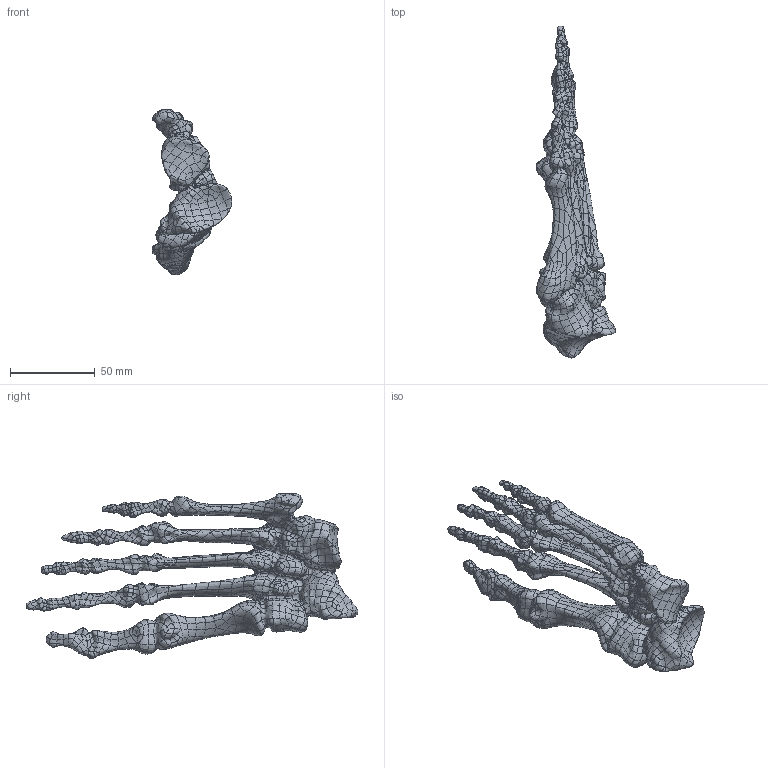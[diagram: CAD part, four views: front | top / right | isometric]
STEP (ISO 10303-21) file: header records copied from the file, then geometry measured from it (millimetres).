
FILE_DESCRIPTION (( 'STEP AP214' ), '1' );
FILE_NAME ('3990 digital file of 1122 Forefoot.STEP', '2011-05-24T20:42:05', ( ' ' ), ( ' ' ), 'SwSTEP 2.0', 'SolidWorks 2010', '' );
FILE_SCHEMA (( 'AUTOMOTIVE_DESIGN' ));
Products named in the file (1): 3990 digital file of 1122 Forefoot
Bounding box: 47.11 x 195.92 x 97.44 mm (x, y, z)
Volume: 115866.2 mm3; surface area: 35332.6 mm2
Topology: 1 solids, 1 shells, 2304 faces, 4608 edges, 2306 vertices
Faces by surface type: bspline 2304
Entity records: 308782 total; most frequent: CARTESIAN_POINT 278787, ORIENTED_EDGE 9216, EDGE_CURVE 4608, B_SPLINE_CURVE_WITH_KNOTS 4608, VERTEX_POINT 2306, ADVANCED_FACE 2304, FACE_OUTER_BOUND 2304, EDGE_LOOP 2304
